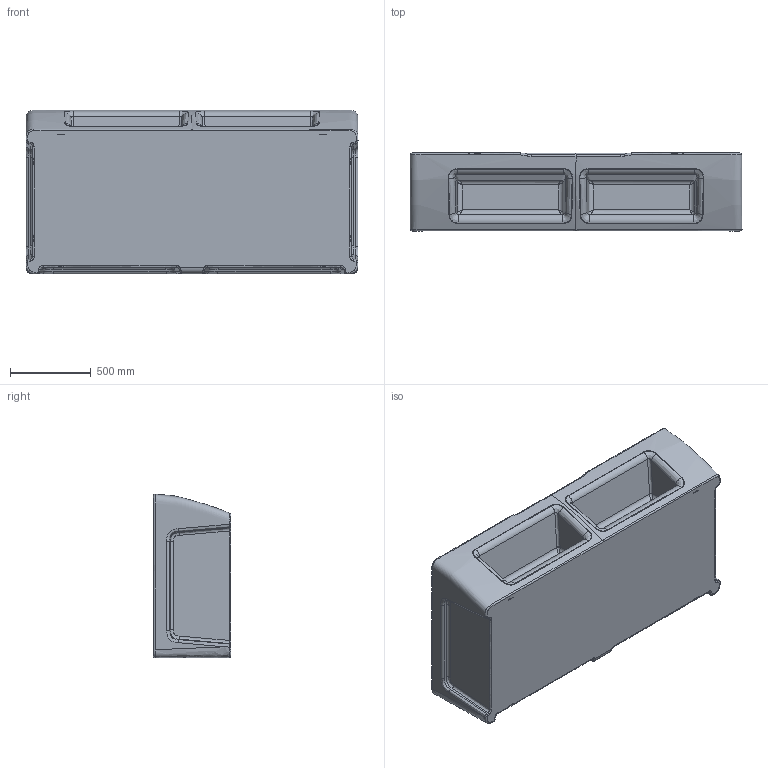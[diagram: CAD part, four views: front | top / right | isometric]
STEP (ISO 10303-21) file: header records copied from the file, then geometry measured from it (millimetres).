
FILE_DESCRIPTION(/* description */ (''),/* implementation_level */ '2;1');
FILE_NAME(/* name */ 'PCM6382 - Ryno Wall Bed With Storage (Simplified).stp',/* time_stamp */ '2024-11-25T15:03:33Z',/* author */ ('Brian.Thangei'),/* organization */ (''),/* preprocessor_version */ 'ST-DEVELOPER v20',/* originating_system */ 'Autodesk Inventor 2024',/* authorisation */ '');
FILE_SCHEMA (('AUTOMOTIVE_DESIGN { 1 0 10303 214 3 1 1 }'));
Products named in the file (1): PCM6382 - Ryno Wall Bed With Storage (Simplified)
Bounding box: 2050 x 480 x 1009.89 mm (x, y, z)
Volume: 791324229.3 mm3; surface area: 7675039.6 mm2
Topology: 1 solids, 1 shells, 572 faces, 1339 edges, 771 vertices
Faces by surface type: bspline 330, cylinder 147, plane 95
Entity records: 121294 total; most frequent: CARTESIAN_POINT 110446, ORIENTED_EDGE 2650, DIRECTION 1604, EDGE_CURVE 1325, VERTEX_POINT 771, AXIS2_PLACEMENT_3D 590, EDGE_LOOP 588, FACE_OUTER_BOUND 572
